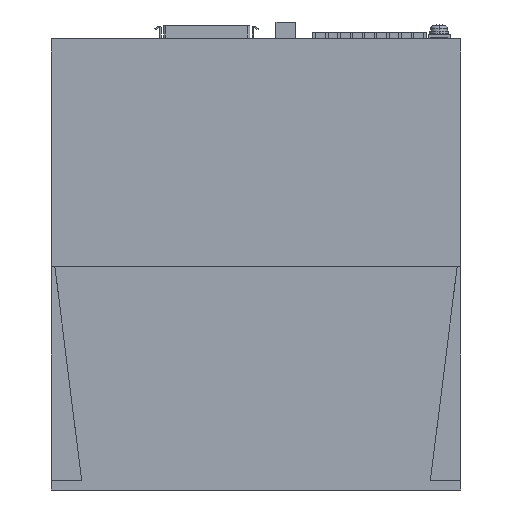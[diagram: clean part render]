
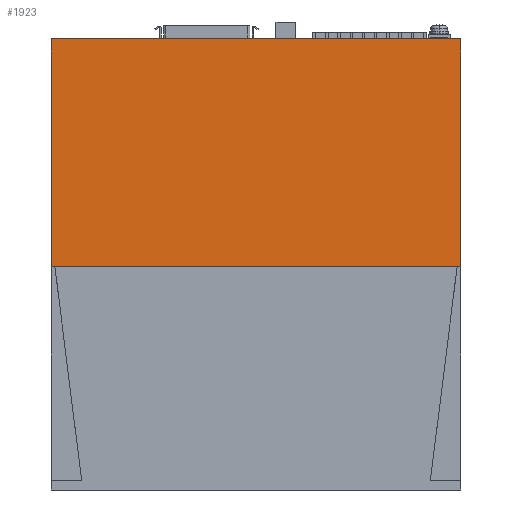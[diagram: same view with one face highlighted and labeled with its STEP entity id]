
A CAD part, left-side view. The second image highlights one B-rep face of the part: STEP entity #1923.
In plain terms, the highlighted planar face has unit normal (-1, 0, 0).
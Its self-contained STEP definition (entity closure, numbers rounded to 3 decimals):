
#1216=DIRECTION('',(0.,0.,-1.));
#1217=VECTOR('',#1216,93.5);
#1218=CARTESIAN_POINT('',(-35.,84.,160.));
#1219=LINE('',#1218,#1217);
#1248=DIRECTION('',(0.,0.,1.));
#1249=VECTOR('',#1248,93.5);
#1250=CARTESIAN_POINT('',(-35.,-84.,66.5));
#1251=LINE('',#1250,#1249);
#1388=DIRECTION('',(0.,-1.,0.));
#1389=VECTOR('',#1388,168.);
#1390=CARTESIAN_POINT('',(-35.,84.,160.));
#1391=LINE('',#1390,#1389);
#1664=DIRECTION('',(0.,1.,0.));
#1665=VECTOR('',#1664,168.);
#1666=CARTESIAN_POINT('',(-35.,-84.,66.5));
#1667=LINE('',#1666,#1665);
#1684=CARTESIAN_POINT('',(-35.,84.,160.));
#1685=CARTESIAN_POINT('',(-35.,-84.,160.));
#1686=VERTEX_POINT('',#1684);
#1687=VERTEX_POINT('',#1685);
#1828=CARTESIAN_POINT('',(-35.,-84.,66.5));
#1829=CARTESIAN_POINT('',(-35.,84.,66.5));
#1830=VERTEX_POINT('',#1828);
#1831=VERTEX_POINT('',#1829);
#1909=CARTESIAN_POINT('',(-35.,84.,0.));
#1910=DIRECTION('',(-1.,0.,0.));
#1911=DIRECTION('',(0.,-1.,0.));
#1912=AXIS2_PLACEMENT_3D('',#1909,#1910,#1911);
#1913=PLANE('',#1912);
#1915=ORIENTED_EDGE('',*,*,#1914,.F.);
#1917=ORIENTED_EDGE('',*,*,#1916,.T.);
#1918=ORIENTED_EDGE('',*,*,#1888,.F.);
#1920=ORIENTED_EDGE('',*,*,#1919,.T.);
#1921=EDGE_LOOP('',(#1915,#1917,#1918,#1920));
#1922=FACE_OUTER_BOUND('',#1921,.F.);
#1923=ADVANCED_FACE('',(#1922),#1913,.T.);
#1888=EDGE_CURVE('',#1686,#1831,#1219,.T.);
#1914=EDGE_CURVE('',#1830,#1687,#1251,.T.);
#1916=EDGE_CURVE('',#1830,#1831,#1667,.T.);
#1919=EDGE_CURVE('',#1686,#1687,#1391,.T.);
